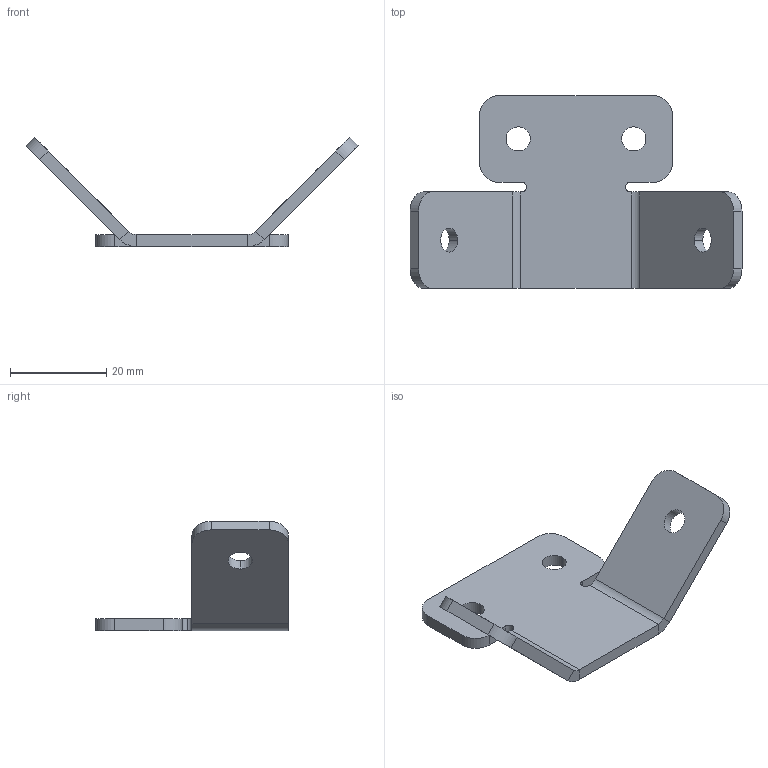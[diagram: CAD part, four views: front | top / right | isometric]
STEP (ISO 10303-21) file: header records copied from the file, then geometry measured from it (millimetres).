
FILE_DESCRIPTION (( 'STEP AP214' ), '1' );
FILE_NAME ('IK 01 O Ñîåäèíèòåëüíûé êîìïëåêò âíåøíèé.STEP', '2022-11-01T11:21:56', ( '' ), ( '' ), 'SwSTEP 2.0', 'SolidWorks 2018', '' );
FILE_SCHEMA (( 'AUTOMOTIVE_DESIGN' ));
Length unit declared in the file: millimetre
Products named in the file (1): IK 01 O Ñîåäèíèòåëüíûé êîìïëåêò âíåøíèé
Bounding box: 68.84 x 40 x 22.65 mm (x, y, z)
Volume: 5827.5 mm3; surface area: 5496.7 mm2
Topology: 1 solids, 1 shells, 48 faces, 122 edges, 76 vertices
Faces by surface type: cylinder 24, plane 24
Entity records: 1496 total; most frequent: DIRECTION 268, CARTESIAN_POINT 247, ORIENTED_EDGE 244, EDGE_CURVE 122, AXIS2_PLACEMENT_3D 97, VERTEX_POINT 76, LINE 74, VECTOR 74
